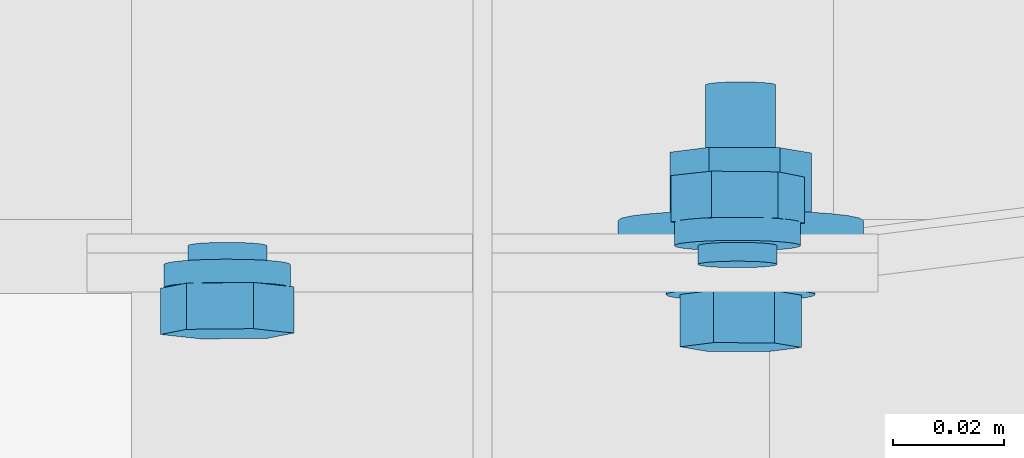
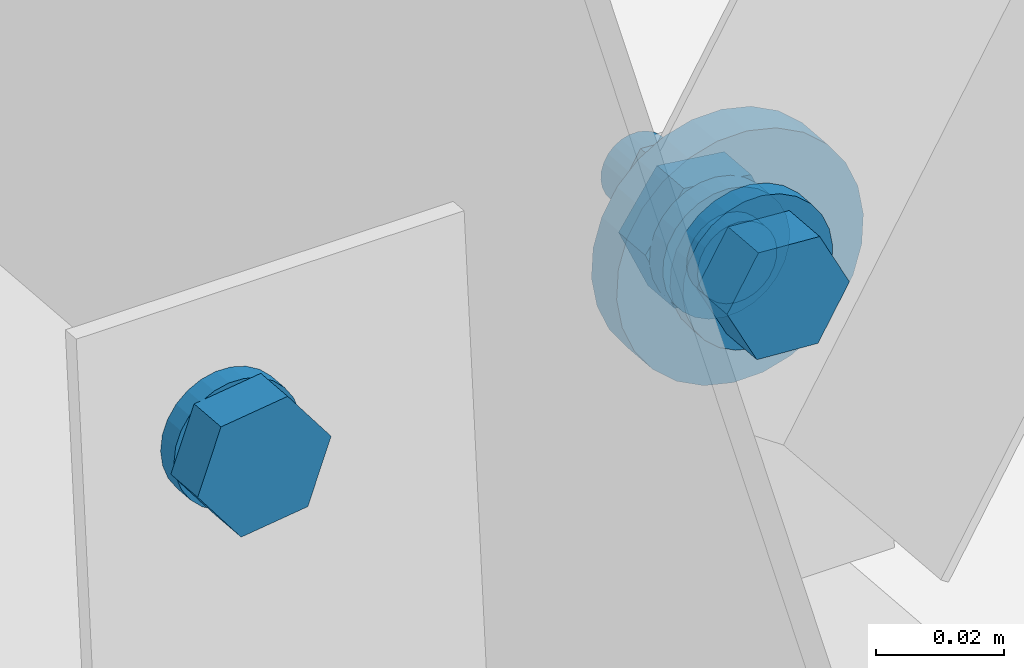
# One storey, part 145 of 185: 3 mechanical fasteners, 2 elements without a shape of their own.
"""IFC2X3 building model written with IfcOpenShell, lengths in millimetres."""

from ifc_helpers import new_model, si_unit, frame, origin_with_axes, origin_2d_with_axis, place, context, subcontext, project, spatial, polyline, circle, outline, extrude, source, transform, mapped, material, type_object, element, aggregate, save


model = new_model("IFC2X3")

# Units and contexts
model_context = context("Model", 3, precision=1e-05, world=origin_with_axes())
body_context = subcontext(model_context, "Body", "Model", "MODEL_VIEW")
ifc_project = project(units=[si_unit("LENGTHUNIT", "METRE", prefix="MILLI"), si_unit("AREAUNIT", "SQUARE_METRE"), si_unit("VOLUMEUNIT", "CUBIC_METRE"), si_unit("MASSUNIT", "GRAM", prefix="KILO"), si_unit("TIMEUNIT", "SECOND"), si_unit("PLANEANGLEUNIT", "RADIAN"), si_unit("SOLIDANGLEUNIT", "STERADIAN"), si_unit("THERMODYNAMICTEMPERATUREUNIT", "DEGREE_CELSIUS"), si_unit("LUMINOUSINTENSITYUNIT", "LUMEN")], contexts=[model_context])

# Site, building, storey
site_placement = place(None, origin_with_axes())
site = spatial("IfcSite", under=ifc_project, at=site_placement, Name="Undefined", CompositionType="ELEMENT")
building_placement = place(site_placement, origin_with_axes())
building = spatial("IfcBuilding", under=site, at=building_placement, Name="Undefined", CompositionType="ELEMENT")
storey_placement = place(building_placement, origin_with_axes())
storey = spatial("IfcBuildingStorey", under=building, at=storey_placement, Name="Undefined", CompositionType="ELEMENT", Elevation=0.0)

# Assembly, mechanical fastener
assembly_1_placement = place(storey_placement, origin_with_axes())
assembly_1 = element("IfcElementAssembly", 1, at=assembly_1_placement, inside=storey, Name="Steel Assembly", AssemblyPlace="NOTDEFINED", PredefinedType="RIGID_FRAME")
ifc_material_1 = material(Name="Undefined")
discrete_accessory_type = type_object("IfcDiscreteAccessoryType", Name="Bolt assembly")
shared_shape_1 = source(origin_with_axes(), body_context, "Body", "SweptSolid", [
    extrude(circle(Radius=7.14374971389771, at=origin_2d_with_axis()), frame((0.0, -1.59000001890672, 0.0), z_axis=(0.0, 1.0, 0.0), x_axis=(1.0, 0.0, 0.0)), (0.0, 0.0, 1.0), 1.7),
    extrude(outline(polyline([(10.9985221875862, 0.0), (5.4992610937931, 9.52499961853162), (-5.4992610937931, 9.52499961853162), (-10.9985221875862, 0.0), (-5.4992610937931, -9.52499961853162), (5.4992610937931, -9.52499961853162), (10.9985221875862, 0.0)])), frame((0.0, -15.0837496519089, 0.0), z_axis=(0.0, 1.0, 0.0), x_axis=(1.0, 0.0, 0.0)), (0.0, 0.0, 1.0), 9.5),
    extrude(circle(Radius=6.34999990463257, at=origin_2d_with_axis()), frame((0.0, -5.5587500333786, 0.0), z_axis=(0.0, 1.0, 0.0), x_axis=(1.0, 0.0, 0.0)), (0.0, 0.0, 1.0), 38.1),
    extrude(circle(Radius=13.4937496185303, at=origin_2d_with_axis()), frame((0.0, -5.5587500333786, 0.0), z_axis=(0.0, 1.0, 0.0), x_axis=(1.0, 0.0, 0.0)), (0.0, 0.0, 1.0), 4.0),
    extrude(circle(Radius=22.2250003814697, at=origin_2d_with_axis()), frame((0.0, 0.0, 0.0), z_axis=(0.0, 1.0, 0.0), x_axis=(1.0, 0.0, 0.0)), (0.0, 0.0, 1.0), 7.9),
    extrude(outline(polyline([(12.8316099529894, 0.0), (6.4158049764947, 11.1125001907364), (-6.4158049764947, 11.1125001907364), (-12.8316099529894, 0.0), (-6.4158049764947, -11.1125001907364), (6.4158049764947, -11.1125001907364), (12.8316099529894, 0.0)])), frame((0.0, 7.93750000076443, 0.0), z_axis=(0.0, 1.0, 0.0), x_axis=(1.0, 0.0, 0.0)), (0.0, 0.0, 1.0), 12.3),
])
mechanical_fastener_1_placement = place(assembly_1_placement, frame((453.111633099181, 23828.040158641, 5914.75831666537), z_axis=(-0.832860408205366, 0.0459642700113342, 0.551571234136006), x_axis=(0.553483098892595, 0.0691652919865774, 0.829983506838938)))
mechanical_fastener_1 = element("IfcMechanicalFastener", 2, at=mechanical_fastener_1_placement, type_object=discrete_accessory_type, material=ifc_material_1, Name="Bolt assembly", NominalDiameter=12.6999998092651, NominalLength=38.0999984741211, context=body_context, shape_type="MappedRepresentation", body=[
    mapped(shared_shape_1, transform((0.0, 0.0, 0.0))),
])
aggregate(assembly_1, [mechanical_fastener_1])

# Assembly, mechanical fasteners
assembly_2_placement = place(storey_placement, origin_with_axes())
assembly_2 = element("IfcElementAssembly", 3, at=assembly_2_placement, inside=storey, Name="Steel Assembly", AssemblyPlace="NOTDEFINED", PredefinedType="RIGID_FRAME")
ifc_material_2 = material(Name="7990")
shared_shape_2 = source(origin_with_axes(), body_context, "Body", "SweptSolid", [
    extrude(circle(Radius=7.14374971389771, at=origin_2d_with_axis()), frame((0.0, -3.41600000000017, 0.0), z_axis=(0.0, 1.0, 0.0), x_axis=(1.0, 0.0, 0.0)), (0.0, 0.0, 1.0), 3.5),
    extrude(circle(Radius=11.4299998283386, at=origin_2d_with_axis()), frame((0.0, 0.0, 0.0), z_axis=(0.0, 1.0, 0.0), x_axis=(1.0, 0.0, 0.0)), (0.0, 0.0, 1.0), 4.2),
    extrude(outline(polyline([(12.171698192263, 0.0), (6.08584909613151, 10.5409998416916), (-6.08584909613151, 10.5409998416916), (-12.171698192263, 0.0), (-6.08584909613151, -10.5409998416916), (6.08584909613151, -10.5409998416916), (12.171698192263, 0.0)])), frame((0.0, 4.1909999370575, 0.0), z_axis=(0.0, 1.0, 0.0), x_axis=(1.0, 0.0, 0.0)), (0.0, 0.0, 1.0), 8.4),
])
mechanical_fastener_2_placement = place(assembly_2_placement, frame((360.241850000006, 23827.9709933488, 5913.92833315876), z_axis=(-0.921635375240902, 0.0322263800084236, 0.386716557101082), x_axis=(-0.388056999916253, -0.0765376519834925, -0.918451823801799)))
mechanical_fastener_2 = element("IfcMechanicalFastener", 4, at=mechanical_fastener_2_placement, type_object=discrete_accessory_type, material=ifc_material_2, Name="Bolt assembly", NominalDiameter=12.6999998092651, NominalLength=38.0999984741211, context=body_context, shape_type="MappedRepresentation", body=[
    mapped(shared_shape_2, transform((0.0, 0.0, 0.0))),
])
shared_shape_3 = source(origin_with_axes(), body_context, "Body", "SweptSolid", [
    extrude(circle(Radius=7.14374971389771, at=origin_2d_with_axis()), frame((0.0, 0.0, 0.0), z_axis=(0.0, 1.0, 0.0), x_axis=(1.0, 0.0, 0.0)), (0.0, 0.0, 1.0), 3.5),
    extrude(circle(Radius=11.4299998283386, at=origin_2d_with_axis()), frame((0.0, 3.41600000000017, 0.0), z_axis=(0.0, 1.0, 0.0), x_axis=(1.0, 0.0, 0.0)), (0.0, 0.0, 1.0), 4.2),
    extrude(outline(polyline([(12.171698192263, 0.0), (6.08584909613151, 10.5409998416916), (-6.08584909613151, 10.5409998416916), (-12.171698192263, 0.0), (-6.08584909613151, -10.5409998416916), (6.08584909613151, -10.5409998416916), (12.171698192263, 0.0)])), frame((0.0, 7.60699993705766, 0.0), z_axis=(0.0, 1.0, 0.0), x_axis=(1.0, 0.0, 0.0)), (0.0, 0.0, 1.0), 8.4),
])
mechanical_fastener_3_placement = place(assembly_2_placement, frame((452.558150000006, 23827.9709933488, 5913.92833315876), z_axis=(0.921635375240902, 0.0322263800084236, 0.386716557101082), x_axis=(0.388056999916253, -0.0765376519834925, -0.918451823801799)))
mechanical_fastener_3 = element("IfcMechanicalFastener", 5, at=mechanical_fastener_3_placement, type_object=discrete_accessory_type, material=ifc_material_2, Name="Bolt assembly", NominalDiameter=12.6999998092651, NominalLength=38.0999984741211, context=body_context, shape_type="MappedRepresentation", body=[
    mapped(shared_shape_3, transform((0.0, 0.0, 0.0))),
])
aggregate(assembly_2, [mechanical_fastener_3, mechanical_fastener_2])

save(model, "model.ifc")
